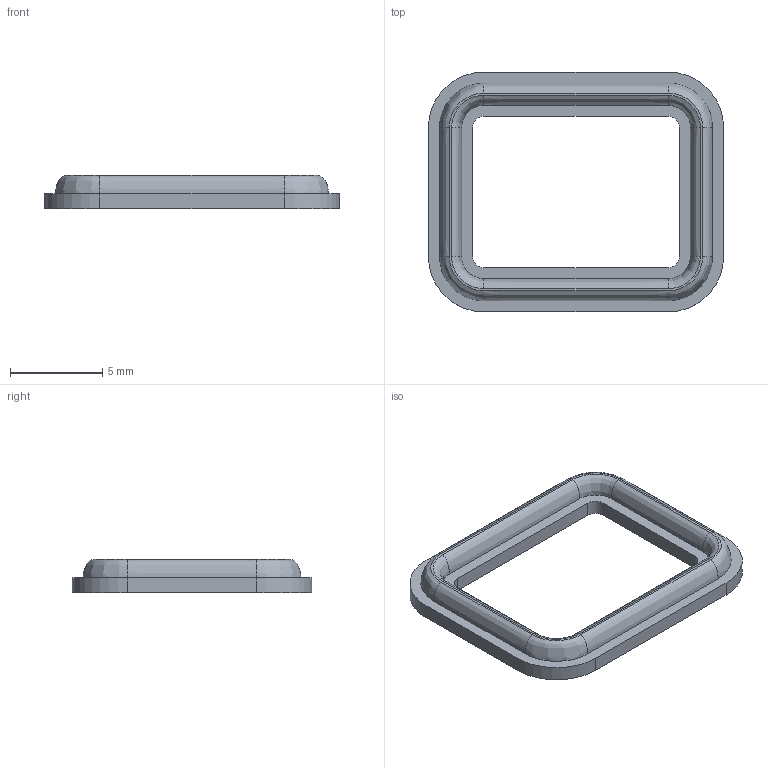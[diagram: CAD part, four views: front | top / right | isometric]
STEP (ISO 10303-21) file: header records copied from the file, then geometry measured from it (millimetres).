
FILE_DESCRIPTION(('FreeCAD Model'),'2;1');
FILE_NAME('Open CASCADE Shape Model','2026-09-29T21:45:23',('Author'),( ''),'Open CASCADE STEP processor 7.8','FreeCAD','Unknown');
FILE_SCHEMA(('AUTOMOTIVE_DESIGN { 1 0 10303 214 1 1 1 1 }'));
Length unit declared in the file: millimetre
Products named in the file (1): service_switch_gasket
Bounding box: 16 x 13 x 1.8 mm (x, y, z)
Volume: 129.7 mm3; surface area: 351.3 mm2
Topology: 1 solids, 1 shells, 36 faces, 96 edges, 64 vertices
Faces by surface type: bspline 16, plane 12, cylinder 8
Entity records: 2138 total; most frequent: CARTESIAN_POINT 1381, ORIENTED_EDGE 192, DIRECTION 106, EDGE_CURVE 96, VERTEX_POINT 64, FACE_BOUND 40, EDGE_LOOP 40, AXIS2_PLACEMENT_3D 37
